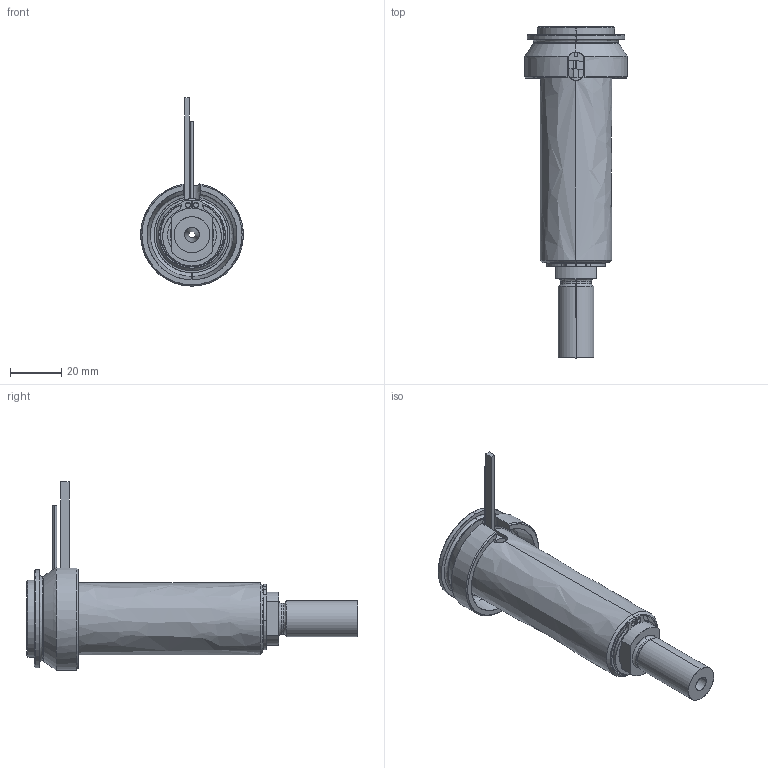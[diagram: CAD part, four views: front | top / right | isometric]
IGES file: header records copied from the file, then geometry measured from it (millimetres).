
Start section: SolidWorks IGES file using analytic representation for surfaces
Global section: file name: C:\Documents and Settings\ws-20\Desktop\TEMPORANEA\UGBE4002-M-A-P-3 [Ød-2.5 P-25 ØC-10].IGS; native system: SolidWorks 2012; preprocessor: SolidWorks 2012; author: ws-20; date: 120306.140637; units: millimetre
Bounding box: 40 x 129.25 x 73.3 mm (x, y, z)
Surface area: 34106.3 mm2 (no closed solid volume)
Topology: 0 solids, 0 shells, 107 faces, 1831 edges, 1831 vertices
Faces by surface type: revolution 60, bspline 47
